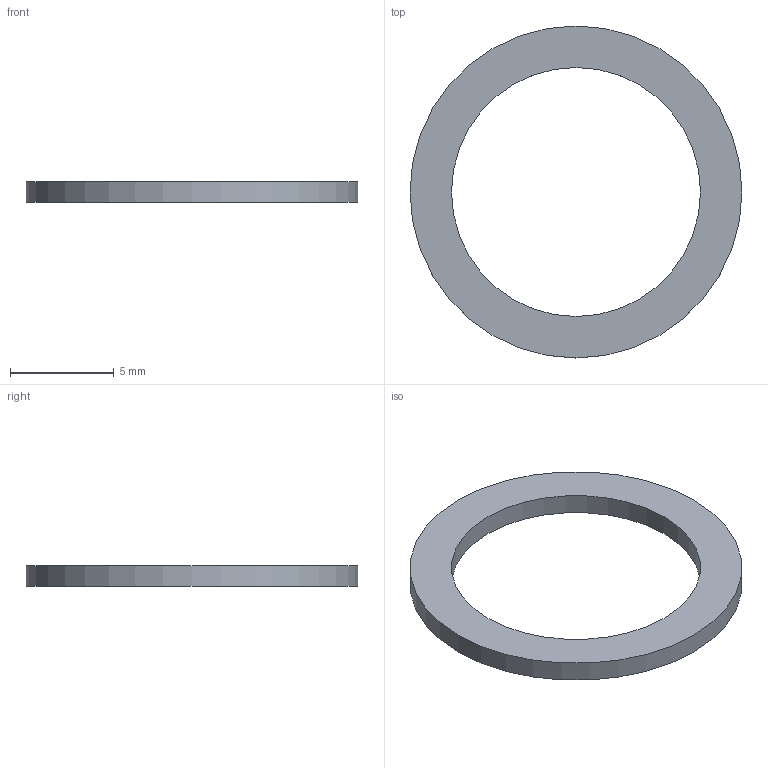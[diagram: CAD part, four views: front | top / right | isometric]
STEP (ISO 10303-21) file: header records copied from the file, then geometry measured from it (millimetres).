
FILE_DESCRIPTION(/* description */ (''),/* implementation_level */ '2;1');
FILE_NAME(/* name */ 'G:\YandexDisk\Работа\Inventor\Универ\ОАП\Лабораторные работы\ЛР6 Создание сборок\Редуктор\stp\Прокладка 6.stp',/* time_stamp */ '2023-11-17T06:36:45+03:00',/* author */ ('34740'),/* organization */ (''),/* preprocessor_version */ 'ST-DEVELOPER v18.1',/* originating_system */ 'Autodesk Inventor 2022',/* authorisation */ '');
FILE_SCHEMA (('AUTOMOTIVE_DESIGN { 1 0 10303 214 3 1 1 }'));
Length unit declared in the file: millimetre
Products named in the file (1): Прокладка 6
Bounding box: 16 x 16 x 1 mm (x, y, z)
Volume: 88 mm3; surface area: 263.9 mm2
Topology: 1 solids, 1 shells, 4 faces, 6 edges, 4 vertices
Faces by surface type: cylinder 2, plane 2
Full cylindrical faces by diameter (mm): 12 x1, 16 x1
Entity records: 139 total; most frequent: DIRECTION 20, CARTESIAN_POINT 15, ORIENTED_EDGE 12, AXIS2_PLACEMENT_3D 9, EDGE_LOOP 6, EDGE_CURVE 6, FACE_OUTER_BOUND 4, CIRCLE 4
